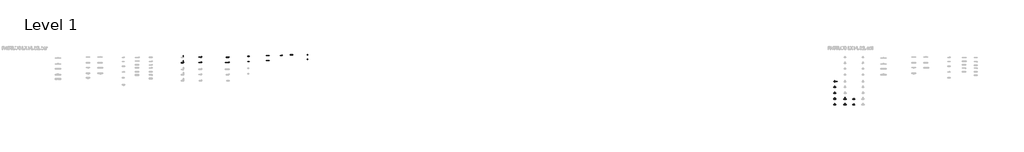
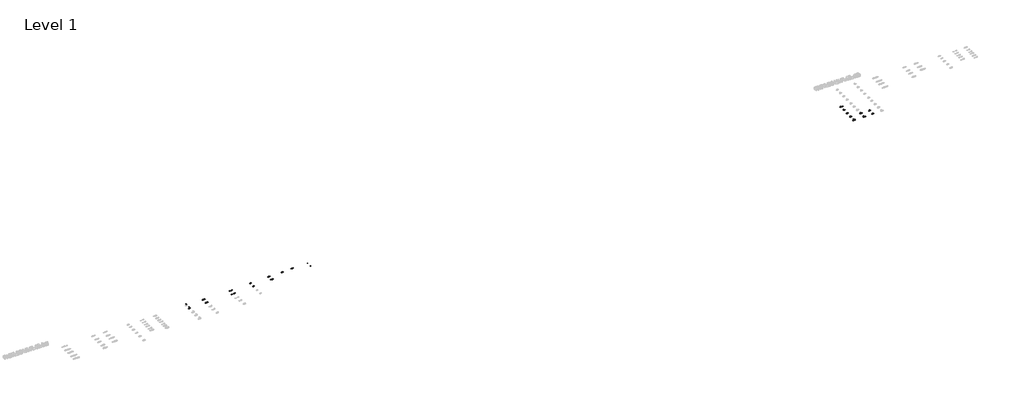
# One storey, part 6 of 78: 40 pipe segments, 17 pipe fittings.
"""IFC4 building model written with IfcOpenShell, lengths in millimetres."""

from ifc_helpers import new_model, si_unit, point, frame, frame_2d, origin, place, context, project, spatial, circle_curve, trimmed, segment, composite_curve, outline, extrude, transform, mapped, element, save
from components import pipe_fitting_ec6341fa, pipe_fitting_8d4eabeb, pipe_fitting_91101529, pipe_fitting_310333dd, pipe_fitting_d1609a9c, pipe_fitting_bded02bd, pipe_fitting_da5243fc, pipe_fitting_29102c59, pipe_fitting_b40a3e3c, pipe_fitting_19df1a9e, pipe_fitting_16730f07, pipe_fitting_e4b23f8c, pipe_fitting_b34869ee, pipe_fitting_24e9e25e

model = new_model("IFC4")

# Units and contexts
model_context = context("Model", 3, world=origin())
ifc_project = project(units=[si_unit("LENGTHUNIT", "METRE", prefix="MILLI")], contexts=[model_context])

# Site, building, storey
site = spatial("IfcSite", under=ifc_project)
building = spatial("IfcBuilding", under=site)
storey = spatial("IfcBuildingStorey", under=building, Name="Level 1", Elevation=0.0)

# Pipe fittings
placement = place(None, origin())
pipe_fitting_shape = pipe_fitting_ec6341fa(model_context)
element("IfcPipeFitting", 1, ObjectType="FASTLOC_Blanking plug LX : FSL Bp LX PL", at=placement, inside=storey, context=model_context, shape_type="MappedRepresentation", body=[
    mapped(pipe_fitting_shape, transform((19955.4857845, -35356.0968766, 0.0), x_axis=(1.0, 0.0, 0.0), y_axis=(0.0, 1.0, 0.0), z_axis=(0.0, 0.0, 1.0))),
])
pipe_fitting_2_shape = pipe_fitting_8d4eabeb(model_context)
element("IfcPipeFitting", 2, ObjectType="FASTLOC_Elbow with female thread LX : FSL A internal PL", at=placement, inside=storey, context=model_context, shape_type="MappedRepresentation", body=[
    mapped(pipe_fitting_2_shape, transform((14636.9744513, -35524.4914884, 0.0), x_axis=(1.0, 0.0, 0.0), y_axis=(0.0, 1.0, 0.0), z_axis=(0.0, 0.0, 1.0))),
])
pipe_fitting_3_shape = pipe_fitting_91101529(model_context)
element("IfcPipeFitting", 3, ObjectType="FASTLOC_Elbow with male thread G LX : FSL A internal PL", at=placement, inside=storey, context=model_context, shape_type="MappedRepresentation", body=[
    mapped(pipe_fitting_3_shape, transform((18245.7203842, -35399.4468766, 0.0), x_axis=(1.0, 0.0, 0.0), y_axis=(0.0, 1.0, 0.0), z_axis=(0.0, 0.0, 1.0))),
])
pipe_fitting_4_shape = pipe_fitting_310333dd(model_context)
element("IfcPipeFitting", 4, ObjectType="FASTLOC_Elbow with male thread LX : FSL A internal PL", at=placement, inside=storey, context=model_context, shape_type="MappedRepresentation", body=[
    mapped(pipe_fitting_4_shape, transform((12775.3768734, -35516.7136389, 0.0), x_axis=(1.0, 0.0, 0.0), y_axis=(0.0, 1.0, 0.0), z_axis=(0.0, 0.0, 1.0))),
])
element("IfcPipeFitting", 5, ObjectType="FASTLOC_Elbow with male thread LX : FSL A internal PL", at=placement, inside=storey, context=model_context, shape_type="MappedRepresentation", body=[
    mapped(pipe_fitting_4_shape, transform((12775.3768734, -35876.7136389, 0.0), x_axis=(1.0, 0.0, 0.0), y_axis=(0.0, 1.0, 0.0), z_axis=(0.0, 0.0, 1.0))),
])
pipe_fitting_5_shape = pipe_fitting_d1609a9c(model_context)
element("IfcPipeFitting", 6, ObjectType="FASTLOC_T-piece_LX : FSL T-Piece LX PL", at=placement, inside=storey, context=model_context, shape_type="MappedRepresentation", body=[
    mapped(pipe_fitting_5_shape, transform((55726.7498072, -37180.2405791, 0.0), x_axis=(1.0, 0.0, 0.0), y_axis=(0.0, 1.0, 0.0), z_axis=(0.0, 0.0, 1.0))),
])
pipe_fitting_6_shape = pipe_fitting_bded02bd(model_context)
element("IfcPipeFitting", 7, ObjectType="FASTLOC_T-piece_LX : FSL T-Piece LX PL", at=placement, inside=storey, context=model_context, shape_type="MappedRepresentation", body=[
    mapped(pipe_fitting_6_shape, transform((55726.7498072, -37560.2405791, 0.0), x_axis=(1.0, 0.0, 0.0), y_axis=(0.0, 1.0, 0.0), z_axis=(0.0, 0.0, 1.0))),
])
pipe_fitting_7_shape = pipe_fitting_da5243fc(model_context)
element("IfcPipeFitting", 8, ObjectType="FASTLOC_T-piece_LX : FSL T-Piece LX PL", at=placement, inside=storey, context=model_context, shape_type="MappedRepresentation", body=[
    mapped(pipe_fitting_7_shape, transform((55726.7498072, -37960.2405791, 0.0), x_axis=(1.0, 0.0, 0.0), y_axis=(0.0, 1.0, 0.0), z_axis=(0.0, 0.0, 1.0))),
])
pipe_fitting_8_shape = pipe_fitting_29102c59(model_context)
element("IfcPipeFitting", 9, ObjectType="FASTLOC_T-piece_LX : FSL T-Piece LX PL", at=placement, inside=storey, context=model_context, shape_type="MappedRepresentation", body=[
    mapped(pipe_fitting_8_shape, transform((55726.7498072, -38360.2405791, 0.0), x_axis=(1.0, 0.0, 0.0), y_axis=(0.0, 1.0, 0.0), z_axis=(0.0, 0.0, 1.0))),
])
element("IfcPipeFitting", 10, ObjectType="FASTLOC_T-piece_LX : FSL T-Piece LX PL", at=placement, inside=storey, context=model_context, shape_type="MappedRepresentation", body=[
    mapped(pipe_fitting_8_shape, transform((55726.7498072, -38760.2405791, 0.0), x_axis=(1.0, 0.0, 0.0), y_axis=(0.0, 1.0, 0.0), z_axis=(0.0, 0.0, 1.0))),
])
element("IfcPipeFitting", 11, ObjectType="FASTLOC_T-piece_LX : FSL T-Piece LX PL", at=placement, inside=storey, context=model_context, shape_type="MappedRepresentation", body=[
    mapped(pipe_fitting_8_shape, transform((56426.7498072, -38760.2405791, 0.0), x_axis=(1.0, 0.0, 0.0), y_axis=(0.0, 1.0, 0.0), z_axis=(0.0, 0.0, 1.0))),
])
pipe_fitting_9_shape = pipe_fitting_b40a3e3c(model_context)
element("IfcPipeFitting", 12, ObjectType="FASTLOC_T-piece_LX : FSL T-Piece LX PL", at=placement, inside=storey, context=model_context, shape_type="MappedRepresentation", body=[
    mapped(pipe_fitting_9_shape, transform((56426.7498072, -38360.2405791, 0.0), x_axis=(1.0, 0.0, 0.0), y_axis=(0.0, 1.0, 0.0), z_axis=(0.0, 0.0, 1.0))),
])
pipe_fitting_10_shape = pipe_fitting_19df1a9e(model_context)
element("IfcPipeFitting", 13, ObjectType="FASTLOC_T-piece_LX : FSL T-Piece LX PL", at=placement, inside=storey, context=model_context, shape_type="MappedRepresentation", body=[
    mapped(pipe_fitting_10_shape, transform((57026.7498072, -38380.2405791, 0.0), x_axis=(1.0, 0.0, 0.0), y_axis=(0.0, 1.0, 0.0), z_axis=(0.0, 0.0, 1.0))),
])
pipe_fitting_11_shape = pipe_fitting_16730f07(model_context)
element("IfcPipeFitting", 14, ObjectType="FASTLOC_T-piece_LX : FSL T-Piece LX PL", at=placement, inside=storey, context=model_context, shape_type="MappedRepresentation", body=[
    mapped(pipe_fitting_11_shape, transform((57026.7498072, -38760.2405791, 0.0), x_axis=(1.0, 0.0, 0.0), y_axis=(0.0, 1.0, 0.0), z_axis=(0.0, 0.0, 1.0))),
])
pipe_fitting_12_shape = pipe_fitting_e4b23f8c(model_context)
element("IfcPipeFitting", 15, ObjectType="FASTLOC_Corner LX : FSL C LX PL", at=placement, inside=storey, context=model_context, shape_type="MappedRepresentation", body=[
    mapped(pipe_fitting_12_shape, transform((11545.4707441, -35898.8136389, 0.0), x_axis=(1.0, 0.0, 0.0), y_axis=(0.0, 1.0, 0.0), z_axis=(0.0, 0.0, 1.0))),
])
pipe_fitting_13_shape = pipe_fitting_b34869ee(model_context)
element("IfcPipeFitting", 16, ObjectType="FASTLOC_Elbow with female thread LX : FSL A internal PL", at=placement, inside=storey, context=model_context, shape_type="MappedRepresentation", body=[
    mapped(pipe_fitting_13_shape, transform((14636.9744513, -35884.4914884, 0.0), x_axis=(1.0, 0.0, 0.0), y_axis=(0.0, 1.0, 0.0), z_axis=(0.0, 0.0, 1.0))),
])
pipe_fitting_14_shape = pipe_fitting_24e9e25e(model_context)
element("IfcPipeFitting", 17, ObjectType="FASTLOC_Blanking plug LX : FSL Bp LX PL", at=placement, inside=storey, context=model_context, shape_type="MappedRepresentation", body=[
    mapped(pipe_fitting_14_shape, transform((19955.4857845, -35676.0968766, 0.0), x_axis=(1.0, 0.0, 0.0), y_axis=(0.0, 1.0, 0.0), z_axis=(0.0, 0.0, 1.0))),
])

# Pipe segments
element("IfcPipeSegment", 18, ObjectType="FASTLOC LX ML PL bar", at=placement, inside=storey, context=model_context, shape_type="SweptSolid", body=[
    extrude(outline(composite_curve([segment(trimmed(circle_curve(frame_2d((0.0, 11545.4707441)), 8.0), [point((0.0, 11553.4707441))], [point((8.0, 11545.4707441))], False, "CARTESIAN"), True, "CONTINUOUS"), segment(trimmed(circle_curve(frame_2d((0.0, 11545.4707441)), 8.0), [point((8.0, 11545.4707441))], [point((0.0, 11537.4707441))], False, "CARTESIAN"), True, "CONTINUOUS"), segment(trimmed(circle_curve(frame_2d((0.0, 11545.4707441)), 8.0), [point((0.0, 11537.4707441))], [point((-8.0, 11545.4707441))], False, "CARTESIAN"), True, "CONTINUOUS"), segment(trimmed(circle_curve(frame_2d((0.0, 11545.4707441)), 8.0), [point((-8.0, 11545.4707441))], [point((0.0, 11553.4707441))], False, "CARTESIAN"), True, "CONTINUOUS")], self_intersect=False)), frame((0.0, -35516.7136389, 0.0), z_axis=(0.0, 1.0, 0.0), x_axis=(0.0, 0.0, 1.0)), (0.0, 0.0, 1.0), 125.0),
])
element("IfcPipeSegment", 19, ObjectType="FASTLOC LX ML PL bar", at=placement, inside=storey, context=model_context, shape_type="SweptSolid", body=[
    extrude(outline(composite_curve([segment(trimmed(circle_curve(frame_2d((-35898.8136389, 0.0)), 8.0), [point((-35890.8136389, 0.0))], [point((-35898.8136389, -8.0))], False, "CARTESIAN"), True, "CONTINUOUS"), segment(trimmed(circle_curve(frame_2d((-35898.8136389, 0.0)), 8.0), [point((-35898.8136389, -8.0))], [point((-35906.8136389, 0.0))], False, "CARTESIAN"), True, "CONTINUOUS"), segment(trimmed(circle_curve(frame_2d((-35898.8136389, 0.0)), 8.0), [point((-35906.8136389, 0.0))], [point((-35898.8136389, 8.0))], False, "CARTESIAN"), True, "CONTINUOUS"), segment(trimmed(circle_curve(frame_2d((-35898.8136389, 0.0)), 8.0), [point((-35898.8136389, 8.0))], [point((-35890.8136389, 0.0))], False, "CARTESIAN"), True, "CONTINUOUS")], self_intersect=False)), frame((11403.3707441, 0.0, 0.0), z_axis=(1.0, 0.0, 0.0), x_axis=(0.0, 1.0, 0.0)), (0.0, 0.0, 1.0), 117.5),
])
element("IfcPipeSegment", 20, ObjectType="FASTLOC LX ML PL bar", at=placement, inside=storey, context=model_context, shape_type="SweptSolid", body=[
    extrude(outline(composite_curve([segment(trimmed(circle_curve(frame_2d((0.0, 11545.4707441)), 8.0), [point((0.0, 11553.4707441))], [point((8.0, 11545.4707441))], False, "CARTESIAN"), True, "CONTINUOUS"), segment(trimmed(circle_curve(frame_2d((0.0, 11545.4707441)), 8.0), [point((8.0, 11545.4707441))], [point((0.0, 11537.4707441))], False, "CARTESIAN"), True, "CONTINUOUS"), segment(trimmed(circle_curve(frame_2d((0.0, 11545.4707441)), 8.0), [point((0.0, 11537.4707441))], [point((-8.0, 11545.4707441))], False, "CARTESIAN"), True, "CONTINUOUS"), segment(trimmed(circle_curve(frame_2d((0.0, 11545.4707441)), 8.0), [point((-8.0, 11545.4707441))], [point((0.0, 11553.4707441))], False, "CARTESIAN"), True, "CONTINUOUS")], self_intersect=False)), frame((0.0, -35874.2136389, 0.0), z_axis=(0.0, 1.0, 0.0), x_axis=(0.0, 0.0, 1.0)), (0.0, 0.0, 1.0), 122.5),
])
element("IfcPipeSegment", 21, ObjectType="FASTLOC LX ML PL bar", at=placement, inside=storey, context=model_context, shape_type="SweptSolid", body=[
    extrude(outline(composite_curve([segment(trimmed(circle_curve(frame_2d((-35454.4604595, 0.0)), 8.0), [point((-35446.4604595, 0.0))], [point((-35454.4604595, -8.0))], False, "CARTESIAN"), True, "CONTINUOUS"), segment(trimmed(circle_curve(frame_2d((-35454.4604595, 0.0)), 8.0), [point((-35454.4604595, -8.0))], [point((-35462.4604595, 0.0))], False, "CARTESIAN"), True, "CONTINUOUS"), segment(trimmed(circle_curve(frame_2d((-35454.4604595, 0.0)), 8.0), [point((-35462.4604595, 0.0))], [point((-35454.4604595, 8.0))], False, "CARTESIAN"), True, "CONTINUOUS"), segment(trimmed(circle_curve(frame_2d((-35454.4604595, 0.0)), 8.0), [point((-35454.4604595, 8.0))], [point((-35446.4604595, 0.0))], False, "CARTESIAN"), True, "CONTINUOUS")], self_intersect=False)), frame((15898.9809397, 0.0, 0.0), z_axis=(1.0, 0.0, 0.0), x_axis=(0.0, 1.0, 0.0)), (0.0, 0.0, 1.0), 99.5),
])
element("IfcPipeSegment", 22, ObjectType="FASTLOC LX ML PL bar", at=placement, inside=storey, context=model_context, shape_type="SweptSolid", body=[
    extrude(outline(composite_curve([segment(trimmed(circle_curve(frame_2d((-35814.4604595, 0.0)), 8.0), [point((-35806.4604595, 0.0))], [point((-35814.4604595, -8.0))], False, "CARTESIAN"), True, "CONTINUOUS"), segment(trimmed(circle_curve(frame_2d((-35814.4604595, 0.0)), 8.0), [point((-35814.4604595, -8.0))], [point((-35822.4604595, 0.0))], False, "CARTESIAN"), True, "CONTINUOUS"), segment(trimmed(circle_curve(frame_2d((-35814.4604595, 0.0)), 8.0), [point((-35822.4604595, 0.0))], [point((-35814.4604595, 8.0))], False, "CARTESIAN"), True, "CONTINUOUS"), segment(trimmed(circle_curve(frame_2d((-35814.4604595, 0.0)), 8.0), [point((-35814.4604595, 8.0))], [point((-35806.4604595, 0.0))], False, "CARTESIAN"), True, "CONTINUOUS")], self_intersect=False)), frame((15898.9809397, 0.0, 0.0), z_axis=(1.0, 0.0, 0.0), x_axis=(0.0, 1.0, 0.0)), (0.0, 0.0, 1.0), 99.6),
])
element("IfcPipeSegment", 23, ObjectType="FASTLOC LX ML PL bar", at=placement, inside=storey, context=model_context, shape_type="SweptSolid", body=[
    extrude(outline(composite_curve([segment(trimmed(circle_curve(frame_2d((-35356.0968766, 0.0)), 8.0), [point((-35364.0968766, 0.0))], [point((-35356.0968766, 8.0))], False, "CARTESIAN"), True, "CONTINUOUS"), segment(trimmed(circle_curve(frame_2d((-35356.0968766, 0.0)), 8.0), [point((-35356.0968766, 8.0))], [point((-35348.0968766, 0.0))], False, "CARTESIAN"), True, "CONTINUOUS"), segment(trimmed(circle_curve(frame_2d((-35356.0968766, 0.0)), 8.0), [point((-35348.0968766, 0.0))], [point((-35356.0968766, -8.0))], False, "CARTESIAN"), True, "CONTINUOUS"), segment(trimmed(circle_curve(frame_2d((-35356.0968766, 0.0)), 8.0), [point((-35356.0968766, -8.0))], [point((-35364.0968766, 0.0))], False, "CARTESIAN"), True, "CONTINUOUS")], self_intersect=False)), frame((19962.1857845, 0.0, 0.0), z_axis=(1.0, 0.0, 0.0), x_axis=(0.0, 1.0, 0.0)), (0.0, 0.0, 1.0), 14.0),
])
element("IfcPipeSegment", 24, ObjectType="FASTLOC LX ML PL bar", at=placement, inside=storey, context=model_context, shape_type="SweptSolid", body=[
    extrude(outline(composite_curve([segment(trimmed(circle_curve(frame_2d((-35399.4468766, 0.0)), 8.0), [point((-35391.4468766, 0.0))], [point((-35399.4468766, -8.0))], False, "CARTESIAN"), True, "CONTINUOUS"), segment(trimmed(circle_curve(frame_2d((-35399.4468766, 0.0)), 8.0), [point((-35399.4468766, -8.0))], [point((-35407.4468766, 0.0))], False, "CARTESIAN"), True, "CONTINUOUS"), segment(trimmed(circle_curve(frame_2d((-35399.4468766, 0.0)), 8.0), [point((-35407.4468766, 0.0))], [point((-35399.4468766, 8.0))], False, "CARTESIAN"), True, "CONTINUOUS"), segment(trimmed(circle_curve(frame_2d((-35399.4468766, 0.0)), 8.0), [point((-35399.4468766, 8.0))], [point((-35391.4468766, 0.0))], False, "CARTESIAN"), True, "CONTINUOUS")], self_intersect=False)), frame((17170.7335921, 0.0, 0.0), z_axis=(1.0, 0.0, 0.0), x_axis=(0.0, 1.0, 0.0)), (0.0, 0.0, 1.0), 185.0),
])
element("IfcPipeSegment", 25, ObjectType="FASTLOC LX ML PL bar", at=placement, inside=storey, context=model_context, shape_type="SweptSolid", body=[
    extrude(outline(composite_curve([segment(trimmed(circle_curve(frame_2d((-35739.4468766, 0.0)), 8.0), [point((-35731.4468766, 0.0))], [point((-35739.4468766, -8.0))], False, "CARTESIAN"), True, "CONTINUOUS"), segment(trimmed(circle_curve(frame_2d((-35739.4468766, 0.0)), 8.0), [point((-35739.4468766, -8.0))], [point((-35747.4468766, 0.0))], False, "CARTESIAN"), True, "CONTINUOUS"), segment(trimmed(circle_curve(frame_2d((-35739.4468766, 0.0)), 8.0), [point((-35747.4468766, 0.0))], [point((-35739.4468766, 8.0))], False, "CARTESIAN"), True, "CONTINUOUS"), segment(trimmed(circle_curve(frame_2d((-35739.4468766, 0.0)), 8.0), [point((-35739.4468766, 8.0))], [point((-35731.4468766, 0.0))], False, "CARTESIAN"), True, "CONTINUOUS")], self_intersect=False)), frame((17170.7335921, 0.0, 0.0), z_axis=(1.0, 0.0, 0.0), x_axis=(0.0, 1.0, 0.0)), (0.0, 0.0, 1.0), 185.0),
])
element("IfcPipeSegment", 26, ObjectType="FASTLOC LX ML PL bar", at=placement, inside=storey, context=model_context, shape_type="SweptSolid", body=[
    extrude(outline(composite_curve([segment(trimmed(circle_curve(frame_2d((-35524.4914884, 0.0)), 8.0), [point((-35516.4914884, 0.0))], [point((-35524.4914884, -8.0))], False, "CARTESIAN"), True, "CONTINUOUS"), segment(trimmed(circle_curve(frame_2d((-35524.4914884, 0.0)), 8.0), [point((-35524.4914884, -8.0))], [point((-35532.4914884, 0.0))], False, "CARTESIAN"), True, "CONTINUOUS"), segment(trimmed(circle_curve(frame_2d((-35524.4914884, 0.0)), 8.0), [point((-35532.4914884, 0.0))], [point((-35524.4914884, 8.0))], False, "CARTESIAN"), True, "CONTINUOUS"), segment(trimmed(circle_curve(frame_2d((-35524.4914884, 0.0)), 8.0), [point((-35524.4914884, 8.0))], [point((-35516.4914884, 0.0))], False, "CARTESIAN"), True, "CONTINUOUS")], self_intersect=False)), frame((14446.7744513, 0.0, 0.0), z_axis=(1.0, 0.0, 0.0), x_axis=(0.0, 1.0, 0.0)), (0.0, 0.0, 1.0), 170.0),
])
element("IfcPipeSegment", 27, ObjectType="FASTLOC LX ML PL bar", at=placement, inside=storey, context=model_context, shape_type="SweptSolid", body=[
    extrude(outline(composite_curve([segment(trimmed(circle_curve(frame_2d((-35359.4468766, 0.0)), 8.0), [point((-35351.4468766, 0.0))], [point((-35359.4468766, -8.0))], False, "CARTESIAN"), True, "CONTINUOUS"), segment(trimmed(circle_curve(frame_2d((-35359.4468766, 0.0)), 8.0), [point((-35359.4468766, -8.0))], [point((-35367.4468766, 0.0))], False, "CARTESIAN"), True, "CONTINUOUS"), segment(trimmed(circle_curve(frame_2d((-35359.4468766, 0.0)), 8.0), [point((-35367.4468766, 0.0))], [point((-35359.4468766, 8.0))], False, "CARTESIAN"), True, "CONTINUOUS"), segment(trimmed(circle_curve(frame_2d((-35359.4468766, 0.0)), 8.0), [point((-35359.4468766, 8.0))], [point((-35351.4468766, 0.0))], False, "CARTESIAN"), True, "CONTINUOUS")], self_intersect=False)), frame((18800.9061427, 0.0, 0.0), z_axis=(1.0, 0.0, 0.0), x_axis=(0.0, 1.0, 0.0)), (0.0, 0.0, 1.0), 160.0),
])
element("IfcPipeSegment", 28, ObjectType="FASTLOC LX ML PL coil", at=placement, inside=storey, context=model_context, shape_type="SweptSolid", body=[
    extrude(outline(composite_curve([segment(trimmed(circle_curve(frame_2d((-37180.2405791, 0.0)), 8.0), [point((-37172.2405791, 0.0))], [point((-37180.2405791, -8.0))], False, "CARTESIAN"), True, "CONTINUOUS"), segment(trimmed(circle_curve(frame_2d((-37180.2405791, 0.0)), 8.0), [point((-37180.2405791, -8.0))], [point((-37188.2405791, 0.0))], False, "CARTESIAN"), True, "CONTINUOUS"), segment(trimmed(circle_curve(frame_2d((-37180.2405791, 0.0)), 8.0), [point((-37188.2405791, 0.0))], [point((-37180.2405791, 8.0))], False, "CARTESIAN"), True, "CONTINUOUS"), segment(trimmed(circle_curve(frame_2d((-37180.2405791, 0.0)), 8.0), [point((-37180.2405791, 8.0))], [point((-37172.2405791, 0.0))], False, "CARTESIAN"), True, "CONTINUOUS")], self_intersect=False)), frame((55664.7498072, 0.0, 0.0), z_axis=(1.0, 0.0, 0.0), x_axis=(0.0, 1.0, 0.0)), (0.0, 0.0, 1.0), 47.0),
])
element("IfcPipeSegment", 29, ObjectType="FASTLOC LX ML PL coil", at=placement, inside=storey, context=model_context, shape_type="SweptSolid", body=[
    extrude(outline(composite_curve([segment(trimmed(circle_curve(frame_2d((0.0, 55726.7498072)), 8.0), [point((0.0, 55734.7498072))], [point((8.0, 55726.7498072))], False, "CARTESIAN"), True, "CONTINUOUS"), segment(trimmed(circle_curve(frame_2d((0.0, 55726.7498072)), 8.0), [point((8.0, 55726.7498072))], [point((0.0, 55718.7498072))], False, "CARTESIAN"), True, "CONTINUOUS"), segment(trimmed(circle_curve(frame_2d((0.0, 55726.7498072)), 8.0), [point((0.0, 55718.7498072))], [point((-8.0, 55726.7498072))], False, "CARTESIAN"), True, "CONTINUOUS"), segment(trimmed(circle_curve(frame_2d((0.0, 55726.7498072)), 8.0), [point((-8.0, 55726.7498072))], [point((0.0, 55734.7498072))], False, "CARTESIAN"), True, "CONTINUOUS")], self_intersect=False)), frame((0.0, -37158.1405791, 0.0), z_axis=(0.0, 1.0, 0.0), x_axis=(0.0, 0.0, 1.0)), (0.0, 0.0, 1.0), 50.2),
])
element("IfcPipeSegment", 30, ObjectType="FASTLOC LX ML PL coil", at=placement, inside=storey, context=model_context, shape_type="SweptSolid", body=[
    extrude(outline(composite_curve([segment(trimmed(circle_curve(frame_2d((-37560.2405791, 0.0)), 8.0), [point((-37568.2405791, 0.0))], [point((-37560.2405791, 8.0))], False, "CARTESIAN"), True, "CONTINUOUS"), segment(trimmed(circle_curve(frame_2d((-37560.2405791, 0.0)), 8.0), [point((-37560.2405791, 8.0))], [point((-37552.2405791, 0.0))], False, "CARTESIAN"), True, "CONTINUOUS"), segment(trimmed(circle_curve(frame_2d((-37560.2405791, 0.0)), 8.0), [point((-37552.2405791, 0.0))], [point((-37560.2405791, -8.0))], False, "CARTESIAN"), True, "CONTINUOUS"), segment(trimmed(circle_curve(frame_2d((-37560.2405791, 0.0)), 8.0), [point((-37560.2405791, -8.0))], [point((-37568.2405791, 0.0))], False, "CARTESIAN"), True, "CONTINUOUS")], self_intersect=False)), frame((55743.9498072, 0.0, 0.0), z_axis=(1.0, 0.0, 0.0), x_axis=(0.0, 1.0, 0.0)), (0.0, 0.0, 1.0), 44.8),
])
element("IfcPipeSegment", 31, ObjectType="FASTLOC LX ML PL coil", at=placement, inside=storey, context=model_context, shape_type="SweptSolid", body=[
    extrude(outline(composite_curve([segment(trimmed(circle_curve(frame_2d((-37560.2405791, 0.0)), 8.0), [point((-37552.2405791, 0.0))], [point((-37560.2405791, -8.0))], False, "CARTESIAN"), True, "CONTINUOUS"), segment(trimmed(circle_curve(frame_2d((-37560.2405791, 0.0)), 8.0), [point((-37560.2405791, -8.0))], [point((-37568.2405791, 0.0))], False, "CARTESIAN"), True, "CONTINUOUS"), segment(trimmed(circle_curve(frame_2d((-37560.2405791, 0.0)), 8.0), [point((-37568.2405791, 0.0))], [point((-37560.2405791, 8.0))], False, "CARTESIAN"), True, "CONTINUOUS"), segment(trimmed(circle_curve(frame_2d((-37560.2405791, 0.0)), 8.0), [point((-37560.2405791, 8.0))], [point((-37552.2405791, 0.0))], False, "CARTESIAN"), True, "CONTINUOUS")], self_intersect=False)), frame((55664.7498072, 0.0, 0.0), z_axis=(1.0, 0.0, 0.0), x_axis=(0.0, 1.0, 0.0)), (0.0, 0.0, 1.0), 44.8),
])
element("IfcPipeSegment", 32, ObjectType="FASTLOC LX ML PL coil", at=placement, inside=storey, context=model_context, shape_type="SweptSolid", body=[
    extrude(outline(composite_curve([segment(trimmed(circle_curve(frame_2d((0.0, 55726.7498072)), 8.0), [point((0.0, 55734.7498072))], [point((8.0, 55726.7498072))], False, "CARTESIAN"), True, "CONTINUOUS"), segment(trimmed(circle_curve(frame_2d((0.0, 55726.7498072)), 8.0), [point((8.0, 55726.7498072))], [point((0.0, 55718.7498072))], False, "CARTESIAN"), True, "CONTINUOUS"), segment(trimmed(circle_curve(frame_2d((0.0, 55726.7498072)), 8.0), [point((0.0, 55718.7498072))], [point((-8.0, 55726.7498072))], False, "CARTESIAN"), True, "CONTINUOUS"), segment(trimmed(circle_curve(frame_2d((0.0, 55726.7498072)), 8.0), [point((-8.0, 55726.7498072))], [point((0.0, 55734.7498072))], False, "CARTESIAN"), True, "CONTINUOUS")], self_intersect=False)), frame((0.0, -37533.8405791, 0.0), z_axis=(0.0, 1.0, 0.0), x_axis=(0.0, 0.0, 1.0)), (0.0, 0.0, 1.0), 45.9),
])
element("IfcPipeSegment", 33, ObjectType="FASTLOC LX ML PL coil", at=placement, inside=storey, context=model_context, shape_type="SweptSolid", body=[
    extrude(outline(composite_curve([segment(trimmed(circle_curve(frame_2d((-37960.2405791, 0.0)), 12.5), [point((-37972.7405791, 0.0))], [point((-37960.2405791, 12.5))], False, "CARTESIAN"), True, "CONTINUOUS"), segment(trimmed(circle_curve(frame_2d((-37960.2405791, 0.0)), 12.5), [point((-37960.2405791, 12.5))], [point((-37947.7405791, 0.0))], False, "CARTESIAN"), True, "CONTINUOUS"), segment(trimmed(circle_curve(frame_2d((-37960.2405791, 0.0)), 12.5), [point((-37947.7405791, 0.0))], [point((-37960.2405791, -12.5))], False, "CARTESIAN"), True, "CONTINUOUS"), segment(trimmed(circle_curve(frame_2d((-37960.2405791, 0.0)), 12.5), [point((-37960.2405791, -12.5))], [point((-37972.7405791, 0.0))], False, "CARTESIAN"), True, "CONTINUOUS")], self_intersect=False)), frame((55746.6498072, 0.0, 0.0), z_axis=(1.0, 0.0, 0.0), x_axis=(0.0, 1.0, 0.0)), (0.0, 0.0, 1.0), 42.1),
])
element("IfcPipeSegment", 34, ObjectType="FASTLOC LX ML PL coil", at=placement, inside=storey, context=model_context, shape_type="SweptSolid", body=[
    extrude(outline(composite_curve([segment(trimmed(circle_curve(frame_2d((-37960.2405791, 0.0)), 12.5), [point((-37947.7405791, 0.0))], [point((-37960.2405791, -12.5))], False, "CARTESIAN"), True, "CONTINUOUS"), segment(trimmed(circle_curve(frame_2d((-37960.2405791, 0.0)), 12.5), [point((-37960.2405791, -12.5))], [point((-37972.7405791, 0.0))], False, "CARTESIAN"), True, "CONTINUOUS"), segment(trimmed(circle_curve(frame_2d((-37960.2405791, 0.0)), 12.5), [point((-37972.7405791, 0.0))], [point((-37960.2405791, 12.5))], False, "CARTESIAN"), True, "CONTINUOUS"), segment(trimmed(circle_curve(frame_2d((-37960.2405791, 0.0)), 12.5), [point((-37960.2405791, 12.5))], [point((-37947.7405791, 0.0))], False, "CARTESIAN"), True, "CONTINUOUS")], self_intersect=False)), frame((55664.7498072, 0.0, 0.0), z_axis=(1.0, 0.0, 0.0), x_axis=(0.0, 1.0, 0.0)), (0.0, 0.0, 1.0), 42.1),
])
element("IfcPipeSegment", 35, ObjectType="FASTLOC LX ML PL coil", at=placement, inside=storey, context=model_context, shape_type="SweptSolid", body=[
    extrude(outline(composite_curve([segment(trimmed(circle_curve(frame_2d((0.0, 55726.7498072)), 12.5), [point((0.0, 55739.2498072))], [point((12.5, 55726.7498072))], False, "CARTESIAN"), True, "CONTINUOUS"), segment(trimmed(circle_curve(frame_2d((0.0, 55726.7498072)), 12.5), [point((12.5, 55726.7498072))], [point((0.0, 55714.2498072))], False, "CARTESIAN"), True, "CONTINUOUS"), segment(trimmed(circle_curve(frame_2d((0.0, 55726.7498072)), 12.5), [point((0.0, 55714.2498072))], [point((-12.5, 55726.7498072))], False, "CARTESIAN"), True, "CONTINUOUS"), segment(trimmed(circle_curve(frame_2d((0.0, 55726.7498072)), 12.5), [point((-12.5, 55726.7498072))], [point((0.0, 55739.2498072))], False, "CARTESIAN"), True, "CONTINUOUS")], self_intersect=False)), frame((0.0, -37930.7405791, 0.0), z_axis=(0.0, 1.0, 0.0), x_axis=(0.0, 0.0, 1.0)), (0.0, 0.0, 1.0), 42.8),
])
element("IfcPipeSegment", 36, ObjectType="FASTLOC LX ML PL coil", at=placement, inside=storey, context=model_context, shape_type="SweptSolid", body=[
    extrude(outline(composite_curve([segment(trimmed(circle_curve(frame_2d((-38360.2405791, 0.0)), 16.0), [point((-38376.2405791, 0.0))], [point((-38360.2405791, 16.0))], False, "CARTESIAN"), True, "CONTINUOUS"), segment(trimmed(circle_curve(frame_2d((-38360.2405791, 0.0)), 16.0), [point((-38360.2405791, 16.0))], [point((-38344.2405791, 0.0))], False, "CARTESIAN"), True, "CONTINUOUS"), segment(trimmed(circle_curve(frame_2d((-38360.2405791, 0.0)), 16.0), [point((-38344.2405791, 0.0))], [point((-38360.2405791, -16.0))], False, "CARTESIAN"), True, "CONTINUOUS"), segment(trimmed(circle_curve(frame_2d((-38360.2405791, 0.0)), 16.0), [point((-38360.2405791, -16.0))], [point((-38376.2405791, 0.0))], False, "CARTESIAN"), True, "CONTINUOUS")], self_intersect=False)), frame((55751.5498072, 0.0, 0.0), z_axis=(1.0, 0.0, 0.0), x_axis=(0.0, 1.0, 0.0)), (0.0, 0.0, 1.0), 37.2),
])
element("IfcPipeSegment", 37, ObjectType="FASTLOC LX ML PL coil", at=placement, inside=storey, context=model_context, shape_type="SweptSolid", body=[
    extrude(outline(composite_curve([segment(trimmed(circle_curve(frame_2d((-38360.2405791, 0.0)), 16.0), [point((-38344.2405791, 0.0))], [point((-38360.2405791, -16.0))], False, "CARTESIAN"), True, "CONTINUOUS"), segment(trimmed(circle_curve(frame_2d((-38360.2405791, 0.0)), 16.0), [point((-38360.2405791, -16.0))], [point((-38376.2405791, 0.0))], False, "CARTESIAN"), True, "CONTINUOUS"), segment(trimmed(circle_curve(frame_2d((-38360.2405791, 0.0)), 16.0), [point((-38376.2405791, 0.0))], [point((-38360.2405791, 16.0))], False, "CARTESIAN"), True, "CONTINUOUS"), segment(trimmed(circle_curve(frame_2d((-38360.2405791, 0.0)), 16.0), [point((-38360.2405791, 16.0))], [point((-38344.2405791, 0.0))], False, "CARTESIAN"), True, "CONTINUOUS")], self_intersect=False)), frame((55664.7498072, 0.0, 0.0), z_axis=(1.0, 0.0, 0.0), x_axis=(0.0, 1.0, 0.0)), (0.0, 0.0, 1.0), 37.2),
])
element("IfcPipeSegment", 38, ObjectType="FASTLOC LX ML PL coil", at=placement, inside=storey, context=model_context, shape_type="SweptSolid", body=[
    extrude(outline(composite_curve([segment(trimmed(circle_curve(frame_2d((0.0, 55726.7498072)), 16.0), [point((0.0, 55742.7498072))], [point((16.0, 55726.7498072))], False, "CARTESIAN"), True, "CONTINUOUS"), segment(trimmed(circle_curve(frame_2d((0.0, 55726.7498072)), 16.0), [point((16.0, 55726.7498072))], [point((0.0, 55710.7498072))], False, "CARTESIAN"), True, "CONTINUOUS"), segment(trimmed(circle_curve(frame_2d((0.0, 55726.7498072)), 16.0), [point((0.0, 55710.7498072))], [point((-16.0, 55726.7498072))], False, "CARTESIAN"), True, "CONTINUOUS"), segment(trimmed(circle_curve(frame_2d((0.0, 55726.7498072)), 16.0), [point((-16.0, 55726.7498072))], [point((0.0, 55742.7498072))], False, "CARTESIAN"), True, "CONTINUOUS")], self_intersect=False)), frame((0.0, -38324.1405791, 0.0), z_axis=(0.0, 1.0, 0.0), x_axis=(0.0, 0.0, 1.0)), (0.0, 0.0, 1.0), 36.2),
])
element("IfcPipeSegment", 39, ObjectType="FASTLOC LX ML PL coil", at=placement, inside=storey, context=model_context, shape_type="SweptSolid", body=[
    extrude(outline(composite_curve([segment(trimmed(circle_curve(frame_2d((-38760.2405791, 0.0)), 16.0), [point((-38776.2405791, 0.0))], [point((-38760.2405791, 16.0))], False, "CARTESIAN"), True, "CONTINUOUS"), segment(trimmed(circle_curve(frame_2d((-38760.2405791, 0.0)), 16.0), [point((-38760.2405791, 16.0))], [point((-38744.2405791, 0.0))], False, "CARTESIAN"), True, "CONTINUOUS"), segment(trimmed(circle_curve(frame_2d((-38760.2405791, 0.0)), 16.0), [point((-38744.2405791, 0.0))], [point((-38760.2405791, -16.0))], False, "CARTESIAN"), True, "CONTINUOUS"), segment(trimmed(circle_curve(frame_2d((-38760.2405791, 0.0)), 16.0), [point((-38760.2405791, -16.0))], [point((-38776.2405791, 0.0))], False, "CARTESIAN"), True, "CONTINUOUS")], self_intersect=False)), frame((55751.5498072, 0.0, 0.0), z_axis=(1.0, 0.0, 0.0), x_axis=(0.0, 1.0, 0.0)), (0.0, 0.0, 1.0), 56.6),
])
element("IfcPipeSegment", 40, ObjectType="FASTLOC LX ML PL coil", at=placement, inside=storey, context=model_context, shape_type="SweptSolid", body=[
    extrude(outline(composite_curve([segment(trimmed(circle_curve(frame_2d((-38760.2405791, 0.0)), 16.0), [point((-38744.2405791, 0.0))], [point((-38760.2405791, -16.0))], False, "CARTESIAN"), True, "CONTINUOUS"), segment(trimmed(circle_curve(frame_2d((-38760.2405791, 0.0)), 16.0), [point((-38760.2405791, -16.0))], [point((-38776.2405791, 0.0))], False, "CARTESIAN"), True, "CONTINUOUS"), segment(trimmed(circle_curve(frame_2d((-38760.2405791, 0.0)), 16.0), [point((-38776.2405791, 0.0))], [point((-38760.2405791, 16.0))], False, "CARTESIAN"), True, "CONTINUOUS"), segment(trimmed(circle_curve(frame_2d((-38760.2405791, 0.0)), 16.0), [point((-38760.2405791, 16.0))], [point((-38744.2405791, 0.0))], False, "CARTESIAN"), True, "CONTINUOUS")], self_intersect=False)), frame((55645.3498072, 0.0, 0.0), z_axis=(1.0, 0.0, 0.0), x_axis=(0.0, 1.0, 0.0)), (0.0, 0.0, 1.0), 56.6),
])
element("IfcPipeSegment", 41, ObjectType="FASTLOC LX ML PL coil", at=placement, inside=storey, context=model_context, shape_type="SweptSolid", body=[
    extrude(outline(composite_curve([segment(trimmed(circle_curve(frame_2d((0.0, 55726.7498072)), 16.0), [point((0.0, 55742.7498072))], [point((16.0, 55726.7498072))], False, "CARTESIAN"), True, "CONTINUOUS"), segment(trimmed(circle_curve(frame_2d((0.0, 55726.7498072)), 16.0), [point((16.0, 55726.7498072))], [point((0.0, 55710.7498072))], False, "CARTESIAN"), True, "CONTINUOUS"), segment(trimmed(circle_curve(frame_2d((0.0, 55726.7498072)), 16.0), [point((0.0, 55710.7498072))], [point((-16.0, 55726.7498072))], False, "CARTESIAN"), True, "CONTINUOUS"), segment(trimmed(circle_curve(frame_2d((0.0, 55726.7498072)), 16.0), [point((-16.0, 55726.7498072))], [point((0.0, 55742.7498072))], False, "CARTESIAN"), True, "CONTINUOUS")], self_intersect=False)), frame((0.0, -38724.1405791, 0.0), z_axis=(0.0, 1.0, 0.0), x_axis=(0.0, 0.0, 1.0)), (0.0, 0.0, 1.0), 71.5),
])
element("IfcPipeSegment", 42, ObjectType="FASTLOC LX ML PL coil", at=placement, inside=storey, context=model_context, shape_type="SweptSolid", body=[
    extrude(outline(composite_curve([segment(trimmed(circle_curve(frame_2d((-38360.2405791, 0.0)), 16.0), [point((-38376.2405791, 0.0))], [point((-38360.2405791, 16.0))], False, "CARTESIAN"), True, "CONTINUOUS"), segment(trimmed(circle_curve(frame_2d((-38360.2405791, 0.0)), 16.0), [point((-38360.2405791, 16.0))], [point((-38344.2405791, 0.0))], False, "CARTESIAN"), True, "CONTINUOUS"), segment(trimmed(circle_curve(frame_2d((-38360.2405791, 0.0)), 16.0), [point((-38344.2405791, 0.0))], [point((-38360.2405791, -16.0))], False, "CARTESIAN"), True, "CONTINUOUS"), segment(trimmed(circle_curve(frame_2d((-38360.2405791, 0.0)), 16.0), [point((-38360.2405791, -16.0))], [point((-38376.2405791, 0.0))], False, "CARTESIAN"), True, "CONTINUOUS")], self_intersect=False)), frame((56448.7498072, 0.0, 0.0), z_axis=(1.0, 0.0, 0.0), x_axis=(0.0, 1.0, 0.0)), (0.0, 0.0, 1.0), 51.6),
])
element("IfcPipeSegment", 43, ObjectType="FASTLOC LX ML PL coil", at=placement, inside=storey, context=model_context, shape_type="SweptSolid", body=[
    extrude(outline(composite_curve([segment(trimmed(circle_curve(frame_2d((-38360.2405791, 0.0)), 16.0), [point((-38344.2405791, 0.0))], [point((-38360.2405791, -16.0))], False, "CARTESIAN"), True, "CONTINUOUS"), segment(trimmed(circle_curve(frame_2d((-38360.2405791, 0.0)), 16.0), [point((-38360.2405791, -16.0))], [point((-38376.2405791, 0.0))], False, "CARTESIAN"), True, "CONTINUOUS"), segment(trimmed(circle_curve(frame_2d((-38360.2405791, 0.0)), 16.0), [point((-38376.2405791, 0.0))], [point((-38360.2405791, 16.0))], False, "CARTESIAN"), True, "CONTINUOUS"), segment(trimmed(circle_curve(frame_2d((-38360.2405791, 0.0)), 16.0), [point((-38360.2405791, 16.0))], [point((-38344.2405791, 0.0))], False, "CARTESIAN"), True, "CONTINUOUS")], self_intersect=False)), frame((56353.1498072, 0.0, 0.0), z_axis=(1.0, 0.0, 0.0), x_axis=(0.0, 1.0, 0.0)), (0.0, 0.0, 1.0), 51.6),
])
element("IfcPipeSegment", 44, ObjectType="FASTLOC LX ML PL coil", at=placement, inside=storey, context=model_context, shape_type="SweptSolid", body=[
    extrude(outline(composite_curve([segment(trimmed(circle_curve(frame_2d((0.0, 56426.7498072)), 12.5), [point((0.0, 56439.2498072))], [point((12.5, 56426.7498072))], False, "CARTESIAN"), True, "CONTINUOUS"), segment(trimmed(circle_curve(frame_2d((0.0, 56426.7498072)), 12.5), [point((12.5, 56426.7498072))], [point((0.0, 56414.2498072))], False, "CARTESIAN"), True, "CONTINUOUS"), segment(trimmed(circle_curve(frame_2d((0.0, 56426.7498072)), 12.5), [point((0.0, 56414.2498072))], [point((-12.5, 56426.7498072))], False, "CARTESIAN"), True, "CONTINUOUS"), segment(trimmed(circle_curve(frame_2d((0.0, 56426.7498072)), 12.5), [point((-12.5, 56426.7498072))], [point((0.0, 56439.2498072))], False, "CARTESIAN"), True, "CONTINUOUS")], self_intersect=False)), frame((0.0, -38325.8405791, 0.0), z_axis=(0.0, 1.0, 0.0), x_axis=(0.0, 0.0, 1.0)), (0.0, 0.0, 1.0), 53.4),
])
element("IfcPipeSegment", 45, ObjectType="FASTLOC LX ML PL coil", at=placement, inside=storey, context=model_context, shape_type="SweptSolid", body=[
    extrude(outline(composite_curve([segment(trimmed(circle_curve(frame_2d((-38760.2405791, 0.0)), 16.0), [point((-38776.2405791, 0.0))], [point((-38760.2405791, 16.0))], False, "CARTESIAN"), True, "CONTINUOUS"), segment(trimmed(circle_curve(frame_2d((-38760.2405791, 0.0)), 16.0), [point((-38760.2405791, 16.0))], [point((-38744.2405791, 0.0))], False, "CARTESIAN"), True, "CONTINUOUS"), segment(trimmed(circle_curve(frame_2d((-38760.2405791, 0.0)), 16.0), [point((-38744.2405791, 0.0))], [point((-38760.2405791, -16.0))], False, "CARTESIAN"), True, "CONTINUOUS"), segment(trimmed(circle_curve(frame_2d((-38760.2405791, 0.0)), 16.0), [point((-38760.2405791, -16.0))], [point((-38776.2405791, 0.0))], False, "CARTESIAN"), True, "CONTINUOUS")], self_intersect=False)), frame((56451.5498072, 0.0, 0.0), z_axis=(1.0, 0.0, 0.0), x_axis=(0.0, 1.0, 0.0)), (0.0, 0.0, 1.0), 56.6),
])
element("IfcPipeSegment", 46, ObjectType="FASTLOC LX ML PL coil", at=placement, inside=storey, context=model_context, shape_type="SweptSolid", body=[
    extrude(outline(composite_curve([segment(trimmed(circle_curve(frame_2d((-38760.2405791, 0.0)), 16.0), [point((-38744.2405791, 0.0))], [point((-38760.2405791, -16.0))], False, "CARTESIAN"), True, "CONTINUOUS"), segment(trimmed(circle_curve(frame_2d((-38760.2405791, 0.0)), 16.0), [point((-38760.2405791, -16.0))], [point((-38776.2405791, 0.0))], False, "CARTESIAN"), True, "CONTINUOUS"), segment(trimmed(circle_curve(frame_2d((-38760.2405791, 0.0)), 16.0), [point((-38776.2405791, 0.0))], [point((-38760.2405791, 16.0))], False, "CARTESIAN"), True, "CONTINUOUS"), segment(trimmed(circle_curve(frame_2d((-38760.2405791, 0.0)), 16.0), [point((-38760.2405791, 16.0))], [point((-38744.2405791, 0.0))], False, "CARTESIAN"), True, "CONTINUOUS")], self_intersect=False)), frame((56345.3498072, 0.0, 0.0), z_axis=(1.0, 0.0, 0.0), x_axis=(0.0, 1.0, 0.0)), (0.0, 0.0, 1.0), 56.6),
])
element("IfcPipeSegment", 47, ObjectType="FASTLOC LX ML PL coil", at=placement, inside=storey, context=model_context, shape_type="SweptSolid", body=[
    extrude(outline(composite_curve([segment(trimmed(circle_curve(frame_2d((0.0, 56426.7498072)), 16.0), [point((0.0, 56442.7498072))], [point((16.0, 56426.7498072))], False, "CARTESIAN"), True, "CONTINUOUS"), segment(trimmed(circle_curve(frame_2d((0.0, 56426.7498072)), 16.0), [point((16.0, 56426.7498072))], [point((0.0, 56410.7498072))], False, "CARTESIAN"), True, "CONTINUOUS"), segment(trimmed(circle_curve(frame_2d((0.0, 56426.7498072)), 16.0), [point((0.0, 56410.7498072))], [point((-16.0, 56426.7498072))], False, "CARTESIAN"), True, "CONTINUOUS"), segment(trimmed(circle_curve(frame_2d((0.0, 56426.7498072)), 16.0), [point((-16.0, 56426.7498072))], [point((0.0, 56442.7498072))], False, "CARTESIAN"), True, "CONTINUOUS")], self_intersect=False)), frame((0.0, -38724.1405791, 0.0), z_axis=(0.0, 1.0, 0.0), x_axis=(0.0, 0.0, 1.0)), (0.0, 0.0, 1.0), 71.5),
])
element("IfcPipeSegment", 48, ObjectType="FASTLOC LX ML PL coil", at=placement, inside=storey, context=model_context, shape_type="SweptSolid", body=[
    extrude(outline(composite_curve([segment(trimmed(circle_curve(frame_2d((-38380.2405791, 0.0)), 8.0), [point((-38388.2405791, 0.0))], [point((-38380.2405791, 8.0))], False, "CARTESIAN"), True, "CONTINUOUS"), segment(trimmed(circle_curve(frame_2d((-38380.2405791, 0.0)), 8.0), [point((-38380.2405791, 8.0))], [point((-38372.2405791, 0.0))], False, "CARTESIAN"), True, "CONTINUOUS"), segment(trimmed(circle_curve(frame_2d((-38380.2405791, 0.0)), 8.0), [point((-38372.2405791, 0.0))], [point((-38380.2405791, -8.0))], False, "CARTESIAN"), True, "CONTINUOUS"), segment(trimmed(circle_curve(frame_2d((-38380.2405791, 0.0)), 8.0), [point((-38380.2405791, -8.0))], [point((-38388.2405791, 0.0))], False, "CARTESIAN"), True, "CONTINUOUS")], self_intersect=False)), frame((57043.7498072, 0.0, 0.0), z_axis=(1.0, 0.0, 0.0), x_axis=(0.0, 1.0, 0.0)), (0.0, 0.0, 1.0), 45.0),
])
element("IfcPipeSegment", 49, ObjectType="FASTLOC LX ML PL coil", at=placement, inside=storey, context=model_context, shape_type="SweptSolid", body=[
    extrude(outline(composite_curve([segment(trimmed(circle_curve(frame_2d((-38380.2405791, 0.0)), 8.0), [point((-38372.2405791, 0.0))], [point((-38380.2405791, -8.0))], False, "CARTESIAN"), True, "CONTINUOUS"), segment(trimmed(circle_curve(frame_2d((-38380.2405791, 0.0)), 8.0), [point((-38380.2405791, -8.0))], [point((-38388.2405791, 0.0))], False, "CARTESIAN"), True, "CONTINUOUS"), segment(trimmed(circle_curve(frame_2d((-38380.2405791, 0.0)), 8.0), [point((-38388.2405791, 0.0))], [point((-38380.2405791, 8.0))], False, "CARTESIAN"), True, "CONTINUOUS"), segment(trimmed(circle_curve(frame_2d((-38380.2405791, 0.0)), 8.0), [point((-38380.2405791, 8.0))], [point((-38372.2405791, 0.0))], False, "CARTESIAN"), True, "CONTINUOUS")], self_intersect=False)), frame((56949.3498072, 0.0, 0.0), z_axis=(1.0, 0.0, 0.0), x_axis=(0.0, 1.0, 0.0)), (0.0, 0.0, 1.0), 60.0),
])
element("IfcPipeSegment", 50, ObjectType="FASTLOC LX ML PL coil", at=placement, inside=storey, context=model_context, shape_type="SweptSolid", body=[
    extrude(outline(composite_curve([segment(trimmed(circle_curve(frame_2d((0.0, 57026.7498072)), 8.0), [point((0.0, 57034.7498072))], [point((8.0, 57026.7498072))], False, "CARTESIAN"), True, "CONTINUOUS"), segment(trimmed(circle_curve(frame_2d((0.0, 57026.7498072)), 8.0), [point((8.0, 57026.7498072))], [point((0.0, 57018.7498072))], False, "CARTESIAN"), True, "CONTINUOUS"), segment(trimmed(circle_curve(frame_2d((0.0, 57026.7498072)), 8.0), [point((0.0, 57018.7498072))], [point((-8.0, 57026.7498072))], False, "CARTESIAN"), True, "CONTINUOUS"), segment(trimmed(circle_curve(frame_2d((0.0, 57026.7498072)), 8.0), [point((-8.0, 57026.7498072))], [point((0.0, 57034.7498072))], False, "CARTESIAN"), True, "CONTINUOUS")], self_intersect=False)), frame((0.0, -38353.8405791, 0.0), z_axis=(0.0, 1.0, 0.0), x_axis=(0.0, 0.0, 1.0)), (0.0, 0.0, 1.0), 45.9),
])
element("IfcPipeSegment", 51, ObjectType="FASTLOC LX ML PL coil", at=placement, inside=storey, context=model_context, shape_type="SweptSolid", body=[
    extrude(outline(composite_curve([segment(trimmed(circle_curve(frame_2d((-38760.2405791, 0.0)), 8.0), [point((-38768.2405791, 0.0))], [point((-38760.2405791, 8.0))], False, "CARTESIAN"), True, "CONTINUOUS"), segment(trimmed(circle_curve(frame_2d((-38760.2405791, 0.0)), 8.0), [point((-38760.2405791, 8.0))], [point((-38752.2405791, 0.0))], False, "CARTESIAN"), True, "CONTINUOUS"), segment(trimmed(circle_curve(frame_2d((-38760.2405791, 0.0)), 8.0), [point((-38752.2405791, 0.0))], [point((-38760.2405791, -8.0))], False, "CARTESIAN"), True, "CONTINUOUS"), segment(trimmed(circle_curve(frame_2d((-38760.2405791, 0.0)), 8.0), [point((-38760.2405791, -8.0))], [point((-38768.2405791, 0.0))], False, "CARTESIAN"), True, "CONTINUOUS")], self_intersect=False)), frame((57045.5498072, 0.0, 0.0), z_axis=(1.0, 0.0, 0.0), x_axis=(0.0, 1.0, 0.0)), (0.0, 0.0, 1.0), 43.2),
])
element("IfcPipeSegment", 52, ObjectType="FASTLOC LX ML PL coil", at=placement, inside=storey, context=model_context, shape_type="SweptSolid", body=[
    extrude(outline(composite_curve([segment(trimmed(circle_curve(frame_2d((-38760.2405791, 0.0)), 12.5), [point((-38747.7405791, 0.0))], [point((-38760.2405791, -12.5))], False, "CARTESIAN"), True, "CONTINUOUS"), segment(trimmed(circle_curve(frame_2d((-38760.2405791, 0.0)), 12.5), [point((-38760.2405791, -12.5))], [point((-38772.7405791, 0.0))], False, "CARTESIAN"), True, "CONTINUOUS"), segment(trimmed(circle_curve(frame_2d((-38760.2405791, 0.0)), 12.5), [point((-38772.7405791, 0.0))], [point((-38760.2405791, 12.5))], False, "CARTESIAN"), True, "CONTINUOUS"), segment(trimmed(circle_curve(frame_2d((-38760.2405791, 0.0)), 12.5), [point((-38760.2405791, 12.5))], [point((-38747.7405791, 0.0))], False, "CARTESIAN"), True, "CONTINUOUS")], self_intersect=False)), frame((56944.3498072, 0.0, 0.0), z_axis=(1.0, 0.0, 0.0), x_axis=(0.0, 1.0, 0.0)), (0.0, 0.0, 1.0), 62.3),
])
element("IfcPipeSegment", 53, ObjectType="FASTLOC LX ML PL coil", at=placement, inside=storey, context=model_context, shape_type="SweptSolid", body=[
    extrude(outline(composite_curve([segment(trimmed(circle_curve(frame_2d((-37180.2405791, 0.0)), 8.0), [point((-37188.2405791, 0.0))], [point((-37180.2405791, 8.0))], False, "CARTESIAN"), True, "CONTINUOUS"), segment(trimmed(circle_curve(frame_2d((-37180.2405791, 0.0)), 8.0), [point((-37180.2405791, 8.0))], [point((-37172.2405791, 0.0))], False, "CARTESIAN"), True, "CONTINUOUS"), segment(trimmed(circle_curve(frame_2d((-37180.2405791, 0.0)), 8.0), [point((-37172.2405791, 0.0))], [point((-37180.2405791, -8.0))], False, "CARTESIAN"), True, "CONTINUOUS"), segment(trimmed(circle_curve(frame_2d((-37180.2405791, 0.0)), 8.0), [point((-37180.2405791, -8.0))], [point((-37188.2405791, 0.0))], False, "CARTESIAN"), True, "CONTINUOUS")], self_intersect=False)), frame((55741.7498072, 0.0, 0.0), z_axis=(1.0, 0.0, 0.0), x_axis=(0.0, 1.0, 0.0)), (0.0, 0.0, 1.0), 140.0),
])
element("IfcPipeSegment", 54, ObjectType="FASTLOC LX ML PL bar", at=placement, inside=storey, context=model_context, shape_type="SweptSolid", body=[
    extrude(outline(composite_curve([segment(trimmed(circle_curve(frame_2d((-35516.7136389, 0.0)), 8.0), [point((-35508.7136389, 0.0))], [point((-35516.7136389, -8.0))], False, "CARTESIAN"), True, "CONTINUOUS"), segment(trimmed(circle_curve(frame_2d((-35516.7136389, 0.0)), 8.0), [point((-35516.7136389, -8.0))], [point((-35524.7136389, 0.0))], False, "CARTESIAN"), True, "CONTINUOUS"), segment(trimmed(circle_curve(frame_2d((-35516.7136389, 0.0)), 8.0), [point((-35524.7136389, 0.0))], [point((-35516.7136389, 8.0))], False, "CARTESIAN"), True, "CONTINUOUS"), segment(trimmed(circle_curve(frame_2d((-35516.7136389, 0.0)), 8.0), [point((-35516.7136389, 8.0))], [point((-35508.7136389, 0.0))], False, "CARTESIAN"), True, "CONTINUOUS")], self_intersect=False)), frame((12585.1768734, 0.0, 0.0), z_axis=(1.0, 0.0, 0.0), x_axis=(0.0, 1.0, 0.0)), (0.0, 0.0, 1.0), 170.0),
])
element("IfcPipeSegment", 55, ObjectType="FASTLOC LX ML PL bar", at=placement, inside=storey, context=model_context, shape_type="SweptSolid", body=[
    extrude(outline(composite_curve([segment(trimmed(circle_curve(frame_2d((-35876.7136389, 0.0)), 8.0), [point((-35868.7136389, 0.0))], [point((-35876.7136389, -8.0))], False, "CARTESIAN"), True, "CONTINUOUS"), segment(trimmed(circle_curve(frame_2d((-35876.7136389, 0.0)), 8.0), [point((-35876.7136389, -8.0))], [point((-35884.7136389, 0.0))], False, "CARTESIAN"), True, "CONTINUOUS"), segment(trimmed(circle_curve(frame_2d((-35876.7136389, 0.0)), 8.0), [point((-35884.7136389, 0.0))], [point((-35876.7136389, 8.0))], False, "CARTESIAN"), True, "CONTINUOUS"), segment(trimmed(circle_curve(frame_2d((-35876.7136389, 0.0)), 8.0), [point((-35876.7136389, 8.0))], [point((-35868.7136389, 0.0))], False, "CARTESIAN"), True, "CONTINUOUS")], self_intersect=False)), frame((12585.1768734, 0.0, 0.0), z_axis=(1.0, 0.0, 0.0), x_axis=(0.0, 1.0, 0.0)), (0.0, 0.0, 1.0), 170.0),
])
element("IfcPipeSegment", 56, ObjectType="FASTLOC LX ML PL bar", at=placement, inside=storey, context=model_context, shape_type="SweptSolid", body=[
    extrude(outline(composite_curve([segment(trimmed(circle_curve(frame_2d((-35884.4914884, 0.0)), 8.0), [point((-35876.4914884, 0.0))], [point((-35884.4914884, -8.0))], False, "CARTESIAN"), True, "CONTINUOUS"), segment(trimmed(circle_curve(frame_2d((-35884.4914884, 0.0)), 8.0), [point((-35884.4914884, -8.0))], [point((-35892.4914884, 0.0))], False, "CARTESIAN"), True, "CONTINUOUS"), segment(trimmed(circle_curve(frame_2d((-35884.4914884, 0.0)), 8.0), [point((-35892.4914884, 0.0))], [point((-35884.4914884, 8.0))], False, "CARTESIAN"), True, "CONTINUOUS"), segment(trimmed(circle_curve(frame_2d((-35884.4914884, 0.0)), 8.0), [point((-35884.4914884, 8.0))], [point((-35876.4914884, 0.0))], False, "CARTESIAN"), True, "CONTINUOUS")], self_intersect=False)), frame((14374.2744513, 0.0, 0.0), z_axis=(1.0, 0.0, 0.0), x_axis=(0.0, 1.0, 0.0)), (0.0, 0.0, 1.0), 240.0),
])
element("IfcPipeSegment", 57, ObjectType="FASTLOC LX ML PL bar", at=placement, inside=storey, context=model_context, shape_type="SweptSolid", body=[
    extrude(outline(composite_curve([segment(trimmed(circle_curve(frame_2d((-35399.4468766, 0.0)), 8.0), [point((-35391.4468766, 0.0))], [point((-35399.4468766, -8.0))], False, "CARTESIAN"), True, "CONTINUOUS"), segment(trimmed(circle_curve(frame_2d((-35399.4468766, 0.0)), 8.0), [point((-35399.4468766, -8.0))], [point((-35407.4468766, 0.0))], False, "CARTESIAN"), True, "CONTINUOUS"), segment(trimmed(circle_curve(frame_2d((-35399.4468766, 0.0)), 8.0), [point((-35407.4468766, 0.0))], [point((-35399.4468766, 8.0))], False, "CARTESIAN"), True, "CONTINUOUS"), segment(trimmed(circle_curve(frame_2d((-35399.4468766, 0.0)), 8.0), [point((-35399.4468766, 8.0))], [point((-35391.4468766, 0.0))], False, "CARTESIAN"), True, "CONTINUOUS")], self_intersect=False)), frame((18107.9203842, 0.0, 0.0), z_axis=(1.0, 0.0, 0.0), x_axis=(0.0, 1.0, 0.0)), (0.0, 0.0, 1.0), 120.0),
])

save(model, "model.ifc")
